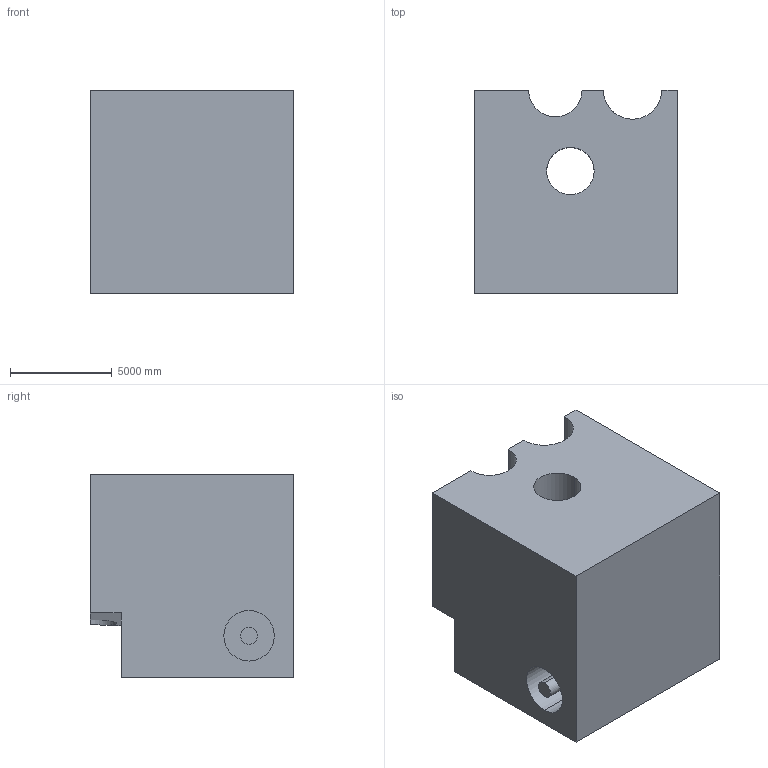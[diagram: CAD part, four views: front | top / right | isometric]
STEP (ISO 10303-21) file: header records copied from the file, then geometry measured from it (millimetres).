
FILE_DESCRIPTION (( 'STEP AP203' ), '1' );
FILE_NAME ('412.STEP', '2022-08-04T14:23:14', ( 'user' ), ( '' ), 'SwSTEP 2.0', 'SolidWorks 2021', '' );
FILE_SCHEMA (( 'CONFIG_CONTROL_DESIGN' ));
Length unit declared in the file: centimetre
Products named in the file (1): 412
Bounding box: 10000 x 10000 x 10000 mm (x, y, z)
Volume: 840776564667.3 mm3; surface area: 739063772.2 mm2
Topology: 1 solids, 1 shells, 21 faces, 51 edges, 34 vertices
Faces by surface type: plane 13, cylinder 8
Entity records: 700 total; most frequent: CARTESIAN_POINT 116, DIRECTION 106, ORIENTED_EDGE 102, EDGE_CURVE 51, AXIS2_PLACEMENT_3D 36, LINE 34, VERTEX_POINT 34, VECTOR 34
